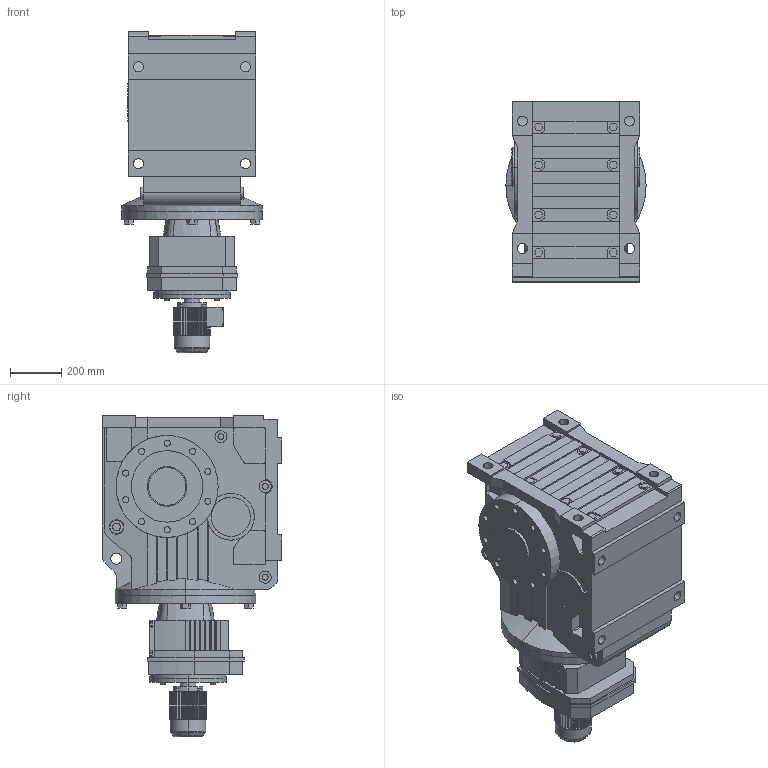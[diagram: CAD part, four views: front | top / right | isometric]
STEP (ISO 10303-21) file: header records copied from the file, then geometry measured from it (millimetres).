
FILE_DESCRIPTION(('Open CASCADE Model'),'2;1');
FILE_NAME('Open CASCADE Shape Model','2021-07-24T16:42:21',('Author'),( 'Open CASCADE'),'Open CASCADE STEP processor 6.3','Open CASCADE 6.3' ,'Unknown');
FILE_SCHEMA(('AUTOMOTIVE_DESIGN_CC2 { 1 2 10303 214 -1 1 5 4 }'));
Length unit declared in the file: millimetre
Products named in the file (5): 1_KA157R97DT80-A; KA127‵157_157.step; 萇儂_300-DT80-231-295-145-122.step; R_157_97.step; す瑩諾陑粣K_157.step
Assembly tree (4 placements, depth 2):
  1_KA157R97DT80-A
    KA127‵157_157.step
    萇儂_300-DT80-231-295-145-122.step
    R_157_97.step
    す瑩諾陑粣K_157.step
Bounding box: 550 x 705 x 1262 mm (x, y, z)
Volume: 219334696.2 mm3; surface area: 4944779.3 mm2
Topology: 4 solids, 4 shells, 1150 faces, 3032 edges, 1985 vertices
Faces by surface type: plane 788, cylinder 344, cone 14, torus 4
Entity records: 81522 total; most frequent: CARTESIAN_POINT 23750, DIRECTION 9938, ORIENTED_EDGE 6064, PCURVE 6064, DEFINITIONAL_REPRESENTATION 6064, LINE 5539, VECTOR 5539, EDGE_CURVE 3032
